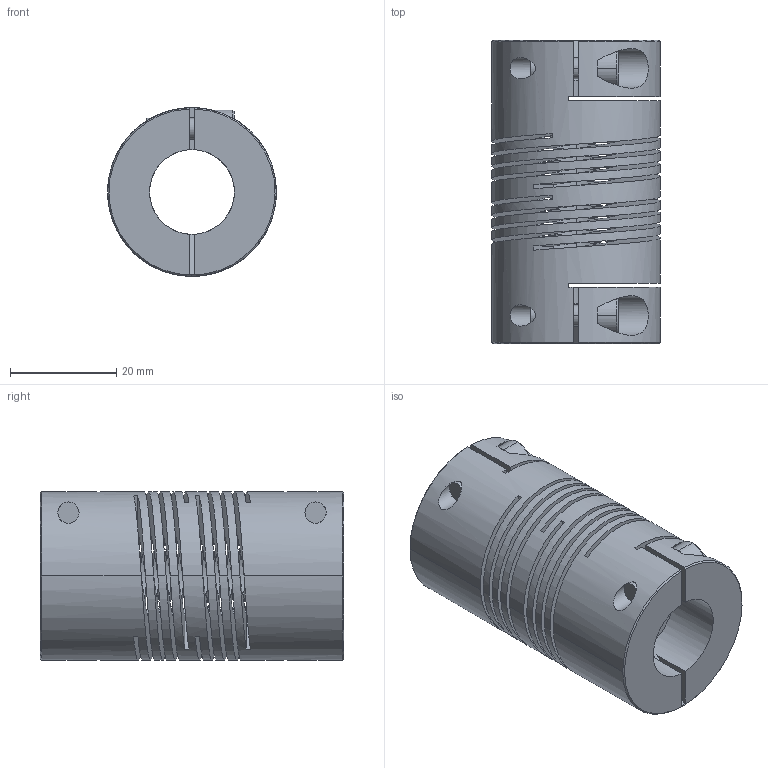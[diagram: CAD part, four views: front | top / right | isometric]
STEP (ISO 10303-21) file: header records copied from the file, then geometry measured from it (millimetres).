
FILE_DESCRIPTION((''),'2;1');
FILE_NAME('727_32','2006-12-05T',('Gary Melling'),(''),'PRO/ENGINEER BY PARAMETRIC TECHNOLOGY CORPORATION, 2006240','PRO/ENGINEER BY PARAMETRIC TECHNOLOGY CORPORATION, 2006240','');
FILE_SCHEMA(('CONFIG_CONTROL_DESIGN'));
Length unit declared in the file: millimetre
Products named in the file (1): 727_32
Bounding box: 31.8 x 57.2 x 31.8 mm (x, y, z)
Volume: 28518 mm3; surface area: 20284.5 mm2
Topology: 1 solids, 1 shells, 120 faces, 356 edges, 232 vertices
Faces by surface type: plane 58, cylinder 44, bspline 12, cone 6
Entity records: 6246 total; most frequent: CARTESIAN_POINT 3138, ORIENTED_EDGE 712, DIRECTION 538, EDGE_CURVE 356, VERTEX_POINT 232, VECTOR 190, LINE 190, AXIS2_PLACEMENT_3D 174
